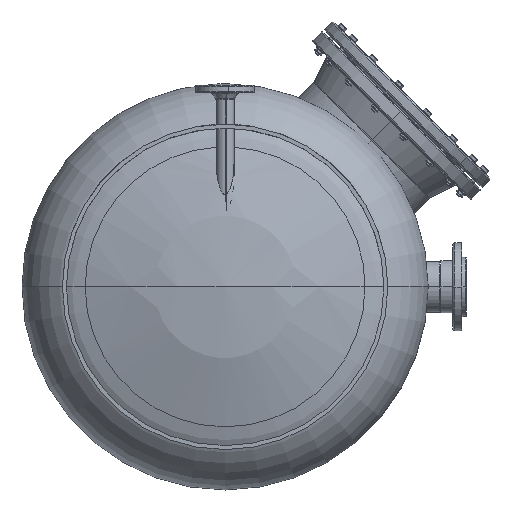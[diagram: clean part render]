
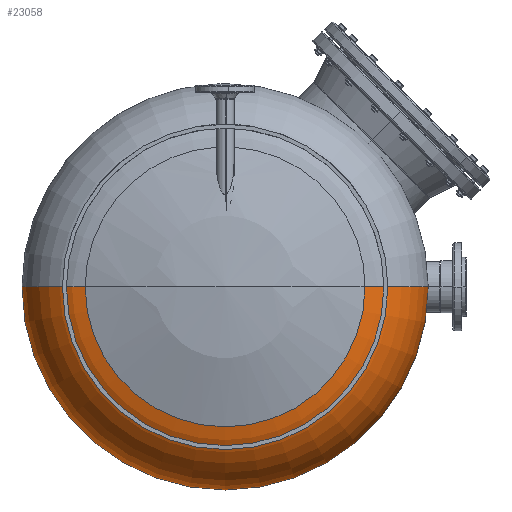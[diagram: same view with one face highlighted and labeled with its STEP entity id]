
A CAD part, front view. The second image highlights one B-rep face of the part: STEP entity #23058.
In plain terms, the highlighted toroidal (fillet/blend) face has major radius 312.5 mm and minor radius 199.446 mm.
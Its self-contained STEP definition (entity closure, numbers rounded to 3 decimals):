
#6251 = DIRECTION ( 'NONE',  ( 1., 0., 0. ) ) ;
#7128 = EDGE_CURVE ( 'NONE', #46567, #38518, #53533, .T. ) ;
#8811 = AXIS2_PLACEMENT_3D ( 'NONE', #43047, #13988, #20869 ) ;
#10047 = CARTESIAN_POINT ( 'NONE',  ( 727.5, 309.189, -415.047 ) ) ;
#11147 = EDGE_LOOP ( 'NONE', ( #11704, #68737, #54096, #58667 ) ) ;
#11704 = ORIENTED_EDGE ( 'NONE', *, *, #55754, .T. ) ;
#13988 = DIRECTION ( 'NONE',  ( 0., 0., -1. ) ) ;
#14883 = DIRECTION ( 'NONE',  ( 0., 0., 1. ) ) ;
#15905 = CARTESIAN_POINT ( 'NONE',  ( -93., 348.667, -415.047 ) ) ;
#18806 = CARTESIAN_POINT ( 'NONE',  ( 62.327, 113.83, -415.047 ) ) ;
#20225 = AXIS2_PLACEMENT_3D ( 'NONE', #67630, #62537, #6251 ) ;
#20869 = DIRECTION ( 'NONE',  ( -0.201, -0.98, 0. ) ) ;
#22796 = CIRCLE ( 'NONE', #8811, 199.446 ) ;
#23058 = ADVANCED_FACE ( 'NONE', ( #51306 ), #43480, .T. ) ;
#25507 = VERTEX_POINT ( 'NONE', #18806 ) ;
#32211 = VERTEX_POINT ( 'NONE', #15905 ) ;
#33039 = CARTESIAN_POINT ( 'NONE',  ( 415., 348.667, -415.047 ) ) ;
#34835 = CARTESIAN_POINT ( 'NONE',  ( 415., 113.83, -415.047 ) ) ;
#38518 = VERTEX_POINT ( 'NONE', #68035 ) ;
#38531 = CARTESIAN_POINT ( 'NONE',  ( 767.673, 113.83, -415.047 ) ) ;
#39590 = DIRECTION ( 'NONE',  ( 1., 0., 0. ) ) ;
#41740 = EDGE_CURVE ( 'NONE', #25507, #32211, #22796, .T. ) ;
#43047 = CARTESIAN_POINT ( 'NONE',  ( 102.5, 309.189, -415.047 ) ) ;
#43098 = AXIS2_PLACEMENT_3D ( 'NONE', #10047, #14883, #58781 ) ;
#43480 = TOROIDAL_SURFACE ( 'NONE', #20225, 312.5, 199.446 ) ;
#46567 = VERTEX_POINT ( 'NONE', #38531 ) ;
#49746 = DIRECTION ( 'NONE',  ( 0., 1., 0. ) ) ;
#51306 = FACE_OUTER_BOUND ( 'NONE', #11147, .T. ) ;
#51911 = DIRECTION ( 'NONE',  ( 0., 1., 0. ) ) ;
#53533 = CIRCLE ( 'NONE', #43098, 199.446 ) ;
#54096 = ORIENTED_EDGE ( 'NONE', *, *, #55046, .F. ) ;
#54264 = CIRCLE ( 'NONE', #68083, 352.673 ) ;
#55046 = EDGE_CURVE ( 'NONE', #38518, #32211, #57670, .T. ) ;
#55754 = EDGE_CURVE ( 'NONE', #46567, #25507, #54264, .T. ) ;
#57670 = CIRCLE ( 'NONE', #69239, 508. ) ;
#58667 = ORIENTED_EDGE ( 'NONE', *, *, #7128, .F. ) ;
#58781 = DIRECTION ( 'NONE',  ( 0.201, -0.98, 0. ) ) ;
#62537 = DIRECTION ( 'NONE',  ( 0., 1., 0. ) ) ;
#67630 = CARTESIAN_POINT ( 'NONE',  ( 415., 309.189, -415.047 ) ) ;
#68035 = CARTESIAN_POINT ( 'NONE',  ( 923., 348.667, -415.047 ) ) ;
#68083 = AXIS2_PLACEMENT_3D ( 'NONE', #34835, #51911, #39590 ) ;
#68737 = ORIENTED_EDGE ( 'NONE', *, *, #41740, .T. ) ;
#69239 = AXIS2_PLACEMENT_3D ( 'NONE', #33039, #49746, #70763 ) ;
#70763 = DIRECTION ( 'NONE',  ( 1., 0., 0. ) ) ;
